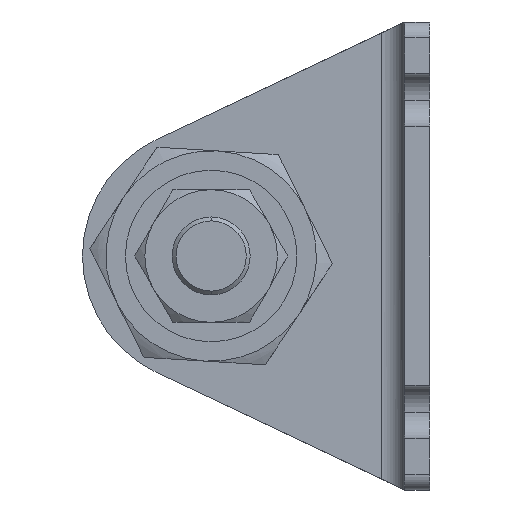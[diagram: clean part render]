
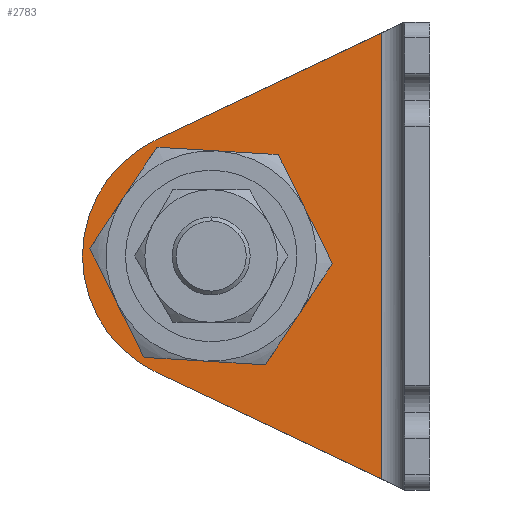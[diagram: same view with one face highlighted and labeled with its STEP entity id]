
A CAD part, left-side view. The second image highlights one B-rep face of the part: STEP entity #2783.
In plain terms, the highlighted planar face has unit normal (-1, 0, 0) as drawn and (1, 0, 0) by its records, which use the part's own axes.
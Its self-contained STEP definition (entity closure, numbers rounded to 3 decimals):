
#43 = ORIENTED_EDGE ( 'NONE', *, *, #2950, .F. ) ;
#47 = ORIENTED_EDGE ( 'NONE', *, *, #1557, .F. ) ;
#74 = EDGE_CURVE ( 'NONE', #1240, #2174, #685, .T. ) ;
#238 = DIRECTION ( 'NONE',  ( 1., 0., 0. ) ) ;
#362 = DIRECTION ( 'NONE',  ( 0., 1., 0. ) ) ;
#652 = CARTESIAN_POINT ( 'NONE',  ( 3.2, 6.2, -1.421 ) ) ;
#685 = LINE ( 'NONE', #3046, #1653 ) ;
#695 = CARTESIAN_POINT ( 'NONE',  ( 3.2, 28., -30. ) ) ;
#698 = AXIS2_PLACEMENT_3D ( 'NONE', #695, #2789, #1446 ) ;
#722 = CARTESIAN_POINT ( 'NONE',  ( 3.2, 16.5, -30. ) ) ;
#782 = AXIS2_PLACEMENT_3D ( 'NONE', #971, #1047, #1781 ) ;
#971 = CARTESIAN_POINT ( 'NONE',  ( 3.2, 28., -30. ) ) ;
#1047 = DIRECTION ( 'NONE',  ( 1., 0., 0. ) ) ;
#1122 = DIRECTION ( 'NONE',  ( 1., 0., 0. ) ) ;
#1160 = DIRECTION ( 'NONE',  ( 0., 0.904, -0.428 ) ) ;
#1240 = VERTEX_POINT ( 'NONE', #652 ) ;
#1329 = FACE_BOUND ( 'NONE', #4131, .T. ) ;
#1356 = DIRECTION ( 'NONE',  ( 0., 0., -1. ) ) ;
#1378 = CIRCLE ( 'NONE', #698, 16.5 ) ;
#1446 = DIRECTION ( 'NONE',  ( 0., 1., 0. ) ) ;
#1550 = EDGE_CURVE ( 'NONE', #1950, #4127, #1378, .T. ) ;
#1557 = EDGE_CURVE ( 'NONE', #2735, #3188, #3303, .T. ) ;
#1564 = DIRECTION ( 'NONE',  ( 1., 0., 0. ) ) ;
#1624 = CARTESIAN_POINT ( 'NONE',  ( 3.2, 44.5, -30. ) ) ;
#1633 = VECTOR ( 'NONE', #1356, 1000. ) ;
#1653 = VECTOR ( 'NONE', #1160, 1000. ) ;
#1781 = DIRECTION ( 'NONE',  ( 0., 1., 0. ) ) ;
#1854 = CARTESIAN_POINT ( 'NONE',  ( 3.2, 28., -30. ) ) ;
#1864 = CARTESIAN_POINT ( 'NONE',  ( 3.2, 3.2, -60. ) ) ;
#1944 = LINE ( 'NONE', #2491, #3958 ) ;
#1950 = VERTEX_POINT ( 'NONE', #2629 ) ;
#1971 = DIRECTION ( 'NONE',  ( 0., 1., 0. ) ) ;
#1991 = ORIENTED_EDGE ( 'NONE', *, *, #2961, .T. ) ;
#2022 = AXIS2_PLACEMENT_3D ( 'NONE', #1854, #1122, #2938 ) ;
#2047 = CARTESIAN_POINT ( 'NONE',  ( 3.2, 28., -30. ) ) ;
#2107 = CIRCLE ( 'NONE', #2022, 16.5 ) ;
#2174 = VERTEX_POINT ( 'NONE', #3429 ) ;
#2357 = EDGE_CURVE ( 'NONE', #1240, #3337, #2906, .T. ) ;
#2400 = ORIENTED_EDGE ( 'NONE', *, *, #3142, .T. ) ;
#2491 = CARTESIAN_POINT ( 'NONE',  ( 3.2, 3.2, -60. ) ) ;
#2571 = AXIS2_PLACEMENT_3D ( 'NONE', #2047, #238, #1971 ) ;
#2604 = ORIENTED_EDGE ( 'NONE', *, *, #74, .F. ) ;
#2629 = CARTESIAN_POINT ( 'NONE',  ( 3.2, 35.062, -44.913 ) ) ;
#2735 = VERTEX_POINT ( 'NONE', #3491 ) ;
#2765 = EDGE_LOOP ( 'NONE', ( #2604, #3864, #2400, #4048, #1991 ) ) ;
#2773 = CIRCLE ( 'NONE', #782, 11.5 ) ;
#2783 = ADVANCED_FACE ( 'NONE', ( #3711, #1329 ), #3986, .T. ) ;
#2789 = DIRECTION ( 'NONE',  ( 1., 0., 0. ) ) ;
#2875 = AXIS2_PLACEMENT_3D ( 'NONE', #1864, #1564, #362 ) ;
#2906 = LINE ( 'NONE', #3096, #1633 ) ;
#2938 = DIRECTION ( 'NONE',  ( 0., 1., 0. ) ) ;
#2950 = EDGE_CURVE ( 'NONE', #3188, #2735, #2773, .T. ) ;
#2961 = EDGE_CURVE ( 'NONE', #4127, #2174, #2107, .T. ) ;
#3046 = CARTESIAN_POINT ( 'NONE',  ( 3.2, 26.408, -10.99 ) ) ;
#3096 = CARTESIAN_POINT ( 'NONE',  ( 3.2, 6.2, -60. ) ) ;
#3142 = EDGE_CURVE ( 'NONE', #3337, #1950, #1944, .T. ) ;
#3188 = VERTEX_POINT ( 'NONE', #722 ) ;
#3303 = CIRCLE ( 'NONE', #2571, 11.5 ) ;
#3337 = VERTEX_POINT ( 'NONE', #3991 ) ;
#3429 = CARTESIAN_POINT ( 'NONE',  ( 3.2, 35.062, -15.087 ) ) ;
#3491 = CARTESIAN_POINT ( 'NONE',  ( 3.2, 39.5, -30. ) ) ;
#3711 = FACE_OUTER_BOUND ( 'NONE', #2765, .T. ) ;
#3864 = ORIENTED_EDGE ( 'NONE', *, *, #2357, .T. ) ;
#3923 = DIRECTION ( 'NONE',  ( 0., 0.904, 0.428 ) ) ;
#3958 = VECTOR ( 'NONE', #3923, 1000. ) ;
#3986 = PLANE ( 'NONE',  #2875 ) ;
#3991 = CARTESIAN_POINT ( 'NONE',  ( 3.2, 6.2, -58.579 ) ) ;
#4048 = ORIENTED_EDGE ( 'NONE', *, *, #1550, .T. ) ;
#4127 = VERTEX_POINT ( 'NONE', #1624 ) ;
#4131 = EDGE_LOOP ( 'NONE', ( #47, #43 ) ) ;
